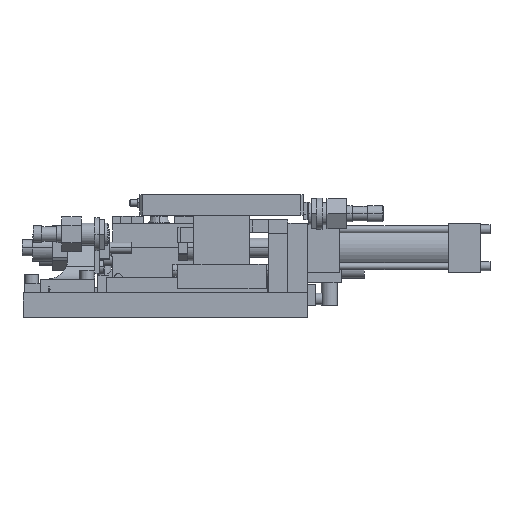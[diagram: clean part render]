
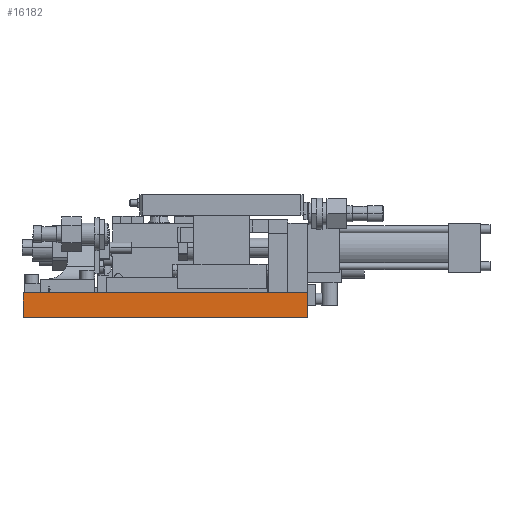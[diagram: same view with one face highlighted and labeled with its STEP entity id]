
A CAD part, front view. The second image highlights one B-rep face of the part: STEP entity #16182.
In plain terms, the highlighted planar face has unit normal (0, -1, 0) as drawn and (0, 1, 0) by its records, which use the part's own axes.
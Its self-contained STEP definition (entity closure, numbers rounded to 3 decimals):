
#307 = VERTEX_POINT ( 'NONE', #2448 ) ;
#426 = PLANE ( 'NONE',  #2150 ) ;
#472 = CARTESIAN_POINT ( 'NONE',  ( 322., 96., 18. ) ) ;
#2150 = AXIS2_PLACEMENT_3D ( 'NONE', #10856, #18188, #28130 ) ;
#2324 = ORIENTED_EDGE ( 'NONE', *, *, #21864, .F. ) ;
#2448 = CARTESIAN_POINT ( 'NONE',  ( 114., 96., 18. ) ) ;
#2505 = DIRECTION ( 'NONE',  ( 0., 0., 1. ) ) ;
#4235 = ORIENTED_EDGE ( 'NONE', *, *, #24330, .F. ) ;
#4886 = VERTEX_POINT ( 'NONE', #472 ) ;
#5295 = CARTESIAN_POINT ( 'NONE',  ( 114., 96., 0. ) ) ;
#8090 = EDGE_CURVE ( 'NONE', #307, #14502, #23196, .T. ) ;
#8380 = VECTOR ( 'NONE', #20419, 1000. ) ;
#9596 = CARTESIAN_POINT ( 'NONE',  ( 114., 96., 18. ) ) ;
#10856 = CARTESIAN_POINT ( 'NONE',  ( 409.698, 96., 18. ) ) ;
#12731 = VECTOR ( 'NONE', #19525, 1000. ) ;
#14337 = CARTESIAN_POINT ( 'NONE',  ( 322., 96., 0. ) ) ;
#14423 = EDGE_LOOP ( 'NONE', ( #2324, #25178, #26142, #4235 ) ) ;
#14502 = VERTEX_POINT ( 'NONE', #5295 ) ;
#14525 = VECTOR ( 'NONE', #21561, 1000. ) ;
#16182 = ADVANCED_FACE ( 'NONE', ( #22751 ), #426, .T. ) ;
#17537 = CARTESIAN_POINT ( 'NONE',  ( 322., 96., 18. ) ) ;
#18188 = DIRECTION ( 'NONE',  ( 0., 1., 0. ) ) ;
#19525 = DIRECTION ( 'NONE',  ( 0., 0., -1. ) ) ;
#19979 = LINE ( 'NONE', #17537, #21915 ) ;
#20419 = DIRECTION ( 'NONE',  ( -1., 0., 0. ) ) ;
#21561 = DIRECTION ( 'NONE',  ( -1., 0., 0. ) ) ;
#21864 = EDGE_CURVE ( 'NONE', #26492, #4886, #19979, .T. ) ;
#21915 = VECTOR ( 'NONE', #2505, 1000. ) ;
#22751 = FACE_OUTER_BOUND ( 'NONE', #14423, .T. ) ;
#23196 = LINE ( 'NONE', #9596, #12731 ) ;
#24330 = EDGE_CURVE ( 'NONE', #4886, #307, #31497, .T. ) ;
#25178 = ORIENTED_EDGE ( 'NONE', *, *, #30379, .T. ) ;
#25606 = LINE ( 'NONE', #28063, #8380 ) ;
#26142 = ORIENTED_EDGE ( 'NONE', *, *, #8090, .F. ) ;
#26492 = VERTEX_POINT ( 'NONE', #14337 ) ;
#26913 = CARTESIAN_POINT ( 'NONE',  ( 409.698, 96., 18. ) ) ;
#28063 = CARTESIAN_POINT ( 'NONE',  ( 409.698, 96., 0. ) ) ;
#28130 = DIRECTION ( 'NONE',  ( 0., 0., 1. ) ) ;
#30379 = EDGE_CURVE ( 'NONE', #26492, #14502, #25606, .T. ) ;
#31497 = LINE ( 'NONE', #26913, #14525 ) ;
